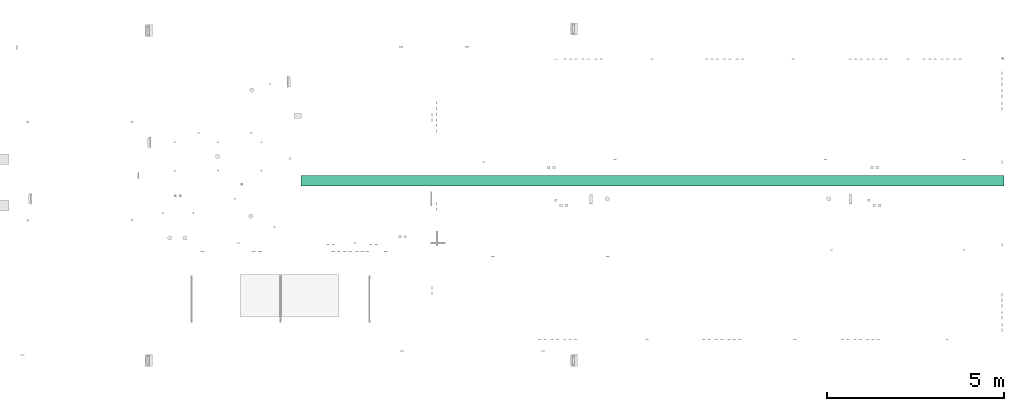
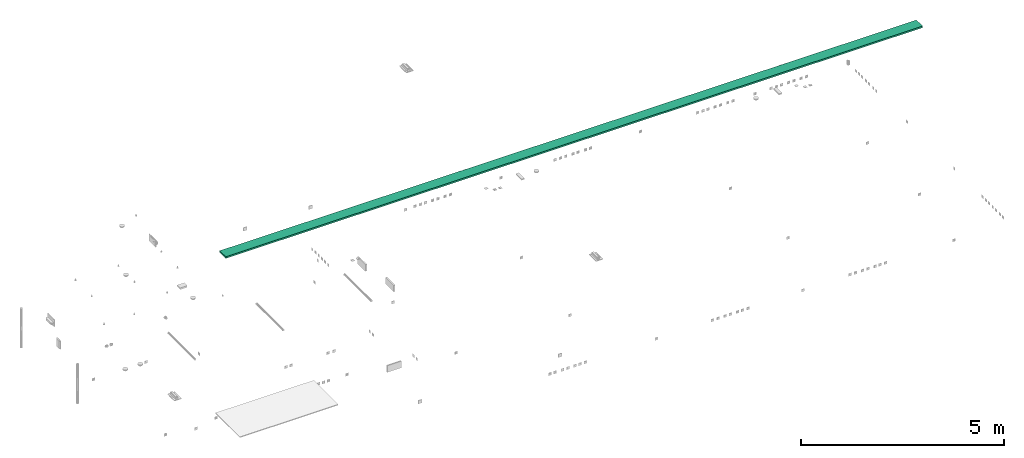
# One storey, part 4 of 146: 1 flow segment.
"""IFC2X3 building model written with IfcOpenShell, lengths in metres."""

from ifc_helpers import new_model, entity, si_unit, converted_unit, derived_unit, direction, frame, frame_2d, origin, place, context, subcontext, project, spatial, rectangle, extrude, type_object, element, save


model = new_model("IFC2X3")

# Units and contexts
model_context = context("Model", 3, precision=1e-05, world=origin(), true_north=direction((6.12303176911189e-17, 1.0)))
body_context = subcontext(model_context, "Body", "Model", "MODEL_VIEW")
ifc_project = project(units=[si_unit("LENGTHUNIT", "METRE"), si_unit("AREAUNIT", "SQUARE_METRE"), si_unit("VOLUMEUNIT", "CUBIC_METRE"), converted_unit("PLANEANGLEUNIT", "DEGREE", entity("IfcRatioMeasure", 0.0174532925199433), si_unit("PLANEANGLEUNIT", "RADIAN"), dimensions=[0, 0, 0, 0, 0, 0, 0]), si_unit("MASSUNIT", "GRAM", prefix="KILO"), derived_unit("MASSDENSITYUNIT", [(si_unit("MASSUNIT", "GRAM", prefix="KILO"), 1), (si_unit("LENGTHUNIT", "METRE"), -3)]), si_unit("TIMEUNIT", "SECOND"), si_unit("FREQUENCYUNIT", "HERTZ"), si_unit("THERMODYNAMICTEMPERATUREUNIT", "DEGREE_CELSIUS"), derived_unit("THERMALTRANSMITTANCEUNIT", [(si_unit("MASSUNIT", "GRAM", prefix="KILO"), 1), (si_unit("THERMODYNAMICTEMPERATUREUNIT", "KELVIN"), -1), (si_unit("TIMEUNIT", "SECOND"), -3)]), derived_unit("VOLUMETRICFLOWRATEUNIT", [(si_unit("LENGTHUNIT", "METRE"), 3), (si_unit("TIMEUNIT", "SECOND"), -1)]), si_unit("ELECTRICCURRENTUNIT", "AMPERE"), si_unit("ELECTRICVOLTAGEUNIT", "VOLT"), si_unit("POWERUNIT", "WATT"), si_unit("FORCEUNIT", "NEWTON"), si_unit("ILLUMINANCEUNIT", "LUX"), si_unit("LUMINOUSFLUXUNIT", "LUMEN"), si_unit("LUMINOUSINTENSITYUNIT", "CANDELA"), derived_unit("USERDEFINED", [(si_unit("MASSUNIT", "GRAM", prefix="KILO"), -1), (si_unit("LENGTHUNIT", "METRE"), -2), (si_unit("TIMEUNIT", "SECOND"), 3), (si_unit("LUMINOUSFLUXUNIT", "LUMEN"), 1)]), derived_unit("LINEARVELOCITYUNIT", [(si_unit("LENGTHUNIT", "METRE"), 1), (si_unit("TIMEUNIT", "SECOND"), -1)]), si_unit("PRESSUREUNIT", "PASCAL"), derived_unit("USERDEFINED", [(si_unit("LENGTHUNIT", "METRE"), -2), (si_unit("MASSUNIT", "GRAM", prefix="KILO"), 1), (si_unit("TIMEUNIT", "SECOND"), -2)])], contexts=[model_context])

# Site, building, storey
site_placement = place(None, origin())
site = spatial("IfcSite", under=ifc_project, at=site_placement, Name="Default", CompositionType="ELEMENT")
building_placement = place(site_placement, origin())
building = spatial("IfcBuilding", under=site, at=building_placement, CompositionType="ELEMENT")
storey_placement = place(building_placement, origin())
storey = spatial("IfcBuildingStorey", under=building, at=storey_placement, Name="S01", CompositionType="ELEMENT", Elevation=0.0)

# Flow segment
cable_carrier_segment_type = type_object("IfcCableCarrierSegmentType", Name="Cable Tray with Fittings:Chemins de câbles en treillis_Chemins de câbles en treillis", PredefinedType="NOTDEFINED")
flow_segment_placement = place(storey_placement, origin())
element("IfcFlowSegment", 1, at=flow_segment_placement, inside=storey, type_object=cable_carrier_segment_type, Name="Cable Tray with Fittings:Chemins de câbles en treillis_Chemins de câbles en treillis", ObjectType="Cable Tray with Fittings:Chemins de câbles en treillis_Chemins de câbles en treillis", context=body_context, shape_type="SweptSolid", body=[
    extrude(rectangle(XDim=19.8334730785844, YDim=0.300000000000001, at=frame_2d((-4.44089209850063e-15, 0.0), x_axis=(1.0, 0.0))), frame((59.6537012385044, -188.700051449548, 3.53), z_axis=(0.0, 0.0, 1.0), x_axis=(-1.0, 0.0, 0.0)), (0.0, 0.0, 1.0), 0.0500000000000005),
])

save(model, "model.ifc")
